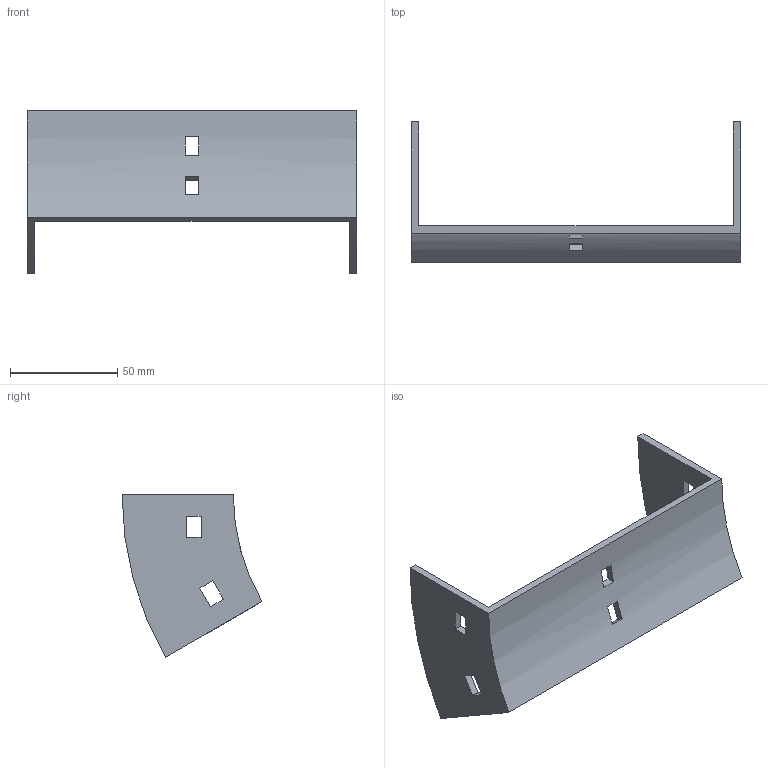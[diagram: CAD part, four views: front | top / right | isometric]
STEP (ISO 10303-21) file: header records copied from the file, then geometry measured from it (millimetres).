
FILE_DESCRIPTION (( 'STEP AP214' ), '1' );
FILE_NAME ('35B1B150.step', '2025-02-21T09:25:21', ( '' ), ( '' ), 'SwSTEP 2.0', 'SolidWorks 2023', '' );
FILE_SCHEMA (( 'AUTOMOTIVE_DESIGN' ));
Length unit declared in the file: millimetre
Products named in the file (1): 35B1B150
Bounding box: 154 x 65.4 x 76 mm (x, y, z)
Volume: 50029.8 mm3; surface area: 31592.2 mm2
Topology: 1 solids, 1 shells, 34 faces, 96 edges, 64 vertices
Faces by surface type: plane 30, cylinder 4
Entity records: 1143 total; most frequent: CARTESIAN_POINT 195, ORIENTED_EDGE 192, DIRECTION 182, EDGE_CURVE 96, LINE 80, VECTOR 80, VERTEX_POINT 64, AXIS2_PLACEMENT_3D 51
